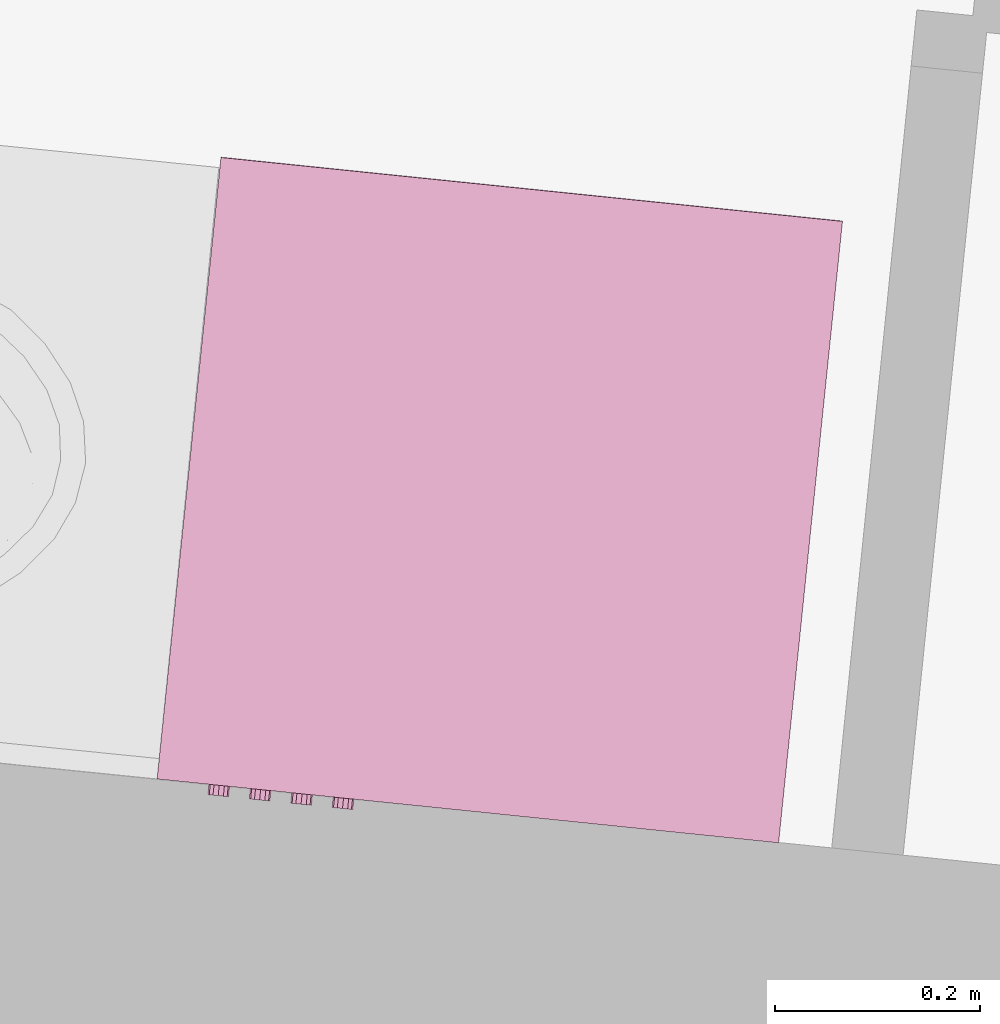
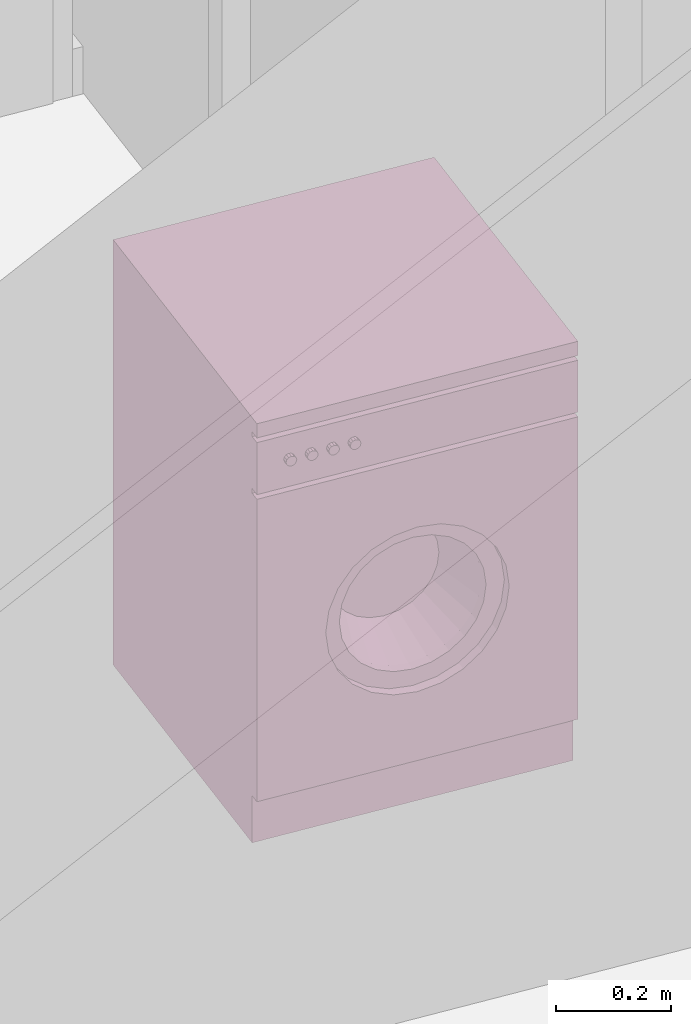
# One storey, part 126 of 164: 1 furnishing.
"""IFC2X3 building model written with IfcOpenShell, lengths in millimetres."""

from ifc_helpers import new_model, entity, si_unit, converted_unit, derived_unit, money_unit, direction, frame, origin_with_axes, place, context, subcontext, project, spatial, open_shell, faceted_brep, surface_model, source, transform, mapped, type_object, element, save


model = new_model("IFC2X3")

# Units and contexts
model_context = context("Model", 3, precision=0.01, world=origin_with_axes(), true_north=direction((0.0, 1.0)))
body_context = subcontext(model_context, "Body", "Model", "MODEL_VIEW")
ifc_project = project(units=[si_unit("LENGTHUNIT", "METRE", prefix="MILLI"), si_unit("AREAUNIT", "SQUARE_METRE"), si_unit("VOLUMEUNIT", "CUBIC_METRE"), converted_unit("PLANEANGLEUNIT", "DEGREE", entity("IfcPlaneAngleMeasure", 0.0174532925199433), si_unit("PLANEANGLEUNIT", "RADIAN"), dimensions=[0, 0, 0, 0, 0, 0, 0]), money_unit("USD"), converted_unit("TIMEUNIT", "Year", entity("IfcTimeMeasure", 31557600.0), si_unit("TIMEUNIT", "SECOND"), dimensions=[0, 0, 1, 0, 0, 0, 0]), si_unit("MASSUNIT", "GRAM", prefix="KILO"), si_unit("THERMODYNAMICTEMPERATUREUNIT", "DEGREE_CELSIUS"), si_unit("LUMINOUSINTENSITYUNIT", "LUMEN"), si_unit("ENERGYUNIT", "JOULE", prefix="MEGA"), derived_unit("THERMALCONDUCTANCEUNIT", [(si_unit("POWERUNIT", "WATT"), 1), (si_unit("LENGTHUNIT", "METRE"), -1), (si_unit("THERMODYNAMICTEMPERATUREUNIT", "KELVIN"), -1)]), derived_unit("SPECIFICHEATCAPACITYUNIT", [(si_unit("ENERGYUNIT", "JOULE"), 1), (si_unit("MASSUNIT", "GRAM", prefix="KILO"), -1), (si_unit("THERMODYNAMICTEMPERATUREUNIT", "KELVIN"), -1)]), derived_unit("MASSDENSITYUNIT", [(si_unit("MASSUNIT", "GRAM", prefix="KILO"), 1), (si_unit("VOLUMEUNIT", "CUBIC_METRE"), -1)])], contexts=[model_context])

# Site, building, storey
site_placement = place(None, origin_with_axes())
site = spatial("IfcSite", under=ifc_project, at=site_placement, Name="Site", CompositionType="ELEMENT")
building_placement = place(site_placement, origin_with_axes())
building = spatial("IfcBuilding", under=site, at=building_placement, Name="Bâtiment", CompositionType="ELEMENT")
storey_placement = place(building_placement, frame((0.0, 0.0, 5750.0), z_axis=(0.0, 0.0, 1.0), x_axis=(1.0, 0.0, 0.0)))
storey = spatial("IfcBuildingStorey", under=building, at=storey_placement, Name="Etage1", CompositionType="ELEMENT", Elevation=5750.0)

# Furnishing
furnishing_element_type = type_object("IfcFurnishingElementType", Name="Machine à laver")
shared_shape = source(origin_with_axes(), body_context, "Body", "SurfaceModel", [
    faceted_brep([(0.0, 20.33333333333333, 100.0), (610.0, 20.33333333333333, 100.0), (610.0, 0.0, 100.0), (0.0, 0.0, 100.0), (0.0, 20.33333333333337, 740.0), (610.0, 20.33333333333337, 740.0), (479.2857142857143, 20.33333333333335, 420.0000000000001), (473.3470725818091, 20.33333333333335, 465.1084621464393), (455.935856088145, 20.33333333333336, 507.1428571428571), (428.2386104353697, 20.33333333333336, 543.2386104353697), (392.1428571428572, 20.33333333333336, 570.935856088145), (350.1084621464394, 20.33333333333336, 588.347072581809), (305.0000000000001, 20.33333333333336, 594.2857142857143), (259.8915378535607, 20.33333333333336, 588.347072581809), (217.8571428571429, 20.33333333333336, 570.9358560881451), (181.7613895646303, 20.33333333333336, 543.2386104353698), (154.0641439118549, 20.33333333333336, 507.1428571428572), (136.6529274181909, 20.33333333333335, 465.1084621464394), (130.7142857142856, 20.33333333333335, 420.0000000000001), (136.6529274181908, 20.33333333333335, 374.8915378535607), (154.0641439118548, 20.33333333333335, 332.8571428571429), (181.7613895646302, 20.33333333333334, 296.7613895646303), (217.8571428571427, 20.33333333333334, 269.064143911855), (259.8915378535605, 20.33333333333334, 251.6529274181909), (304.9999999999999, 20.33333333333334, 245.7142857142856), (350.1084621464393, 20.33333333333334, 251.6529274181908), (392.1428571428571, 20.33333333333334, 269.0641439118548), (428.2386104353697, 20.33333333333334, 296.7613895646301), (455.935856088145, 20.33333333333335, 332.8571428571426), (473.3470725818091, 20.33333333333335, 374.8915378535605), (610.0, 0.0, 740.0), (0.0, 0.0, 740.0), (479.2857142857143, 0.0, 420.0000000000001), (473.3470725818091, 0.0, 374.8915378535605), (455.935856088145, 0.0, 332.8571428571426), (428.2386104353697, 0.0, 296.7613895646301), (392.1428571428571, 0.0, 269.0641439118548), (350.1084621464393, 0.0, 251.6529274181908), (304.9999999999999, 0.0, 245.7142857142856), (259.8915378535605, 0.0, 251.6529274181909), (217.8571428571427, 0.0, 269.064143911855), (181.7613895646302, 0.0, 296.7613895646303), (154.0641439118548, 0.0, 332.8571428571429), (136.6529274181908, 0.0, 374.8915378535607), (130.7142857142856, 0.0, 420.0000000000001), (136.6529274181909, 0.0, 465.1084621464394), (154.0641439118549, 0.0, 507.1428571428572), (181.7613895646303, 0.0, 543.2386104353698), (217.8571428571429, 0.0, 570.9358560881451), (259.8915378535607, 0.0, 588.347072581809), (305.0000000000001, 0.0, 594.2857142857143), (350.1084621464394, 0.0, 588.347072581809), (392.1428571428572, 0.0, 570.935856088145), (428.2386104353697, 0.0, 543.2386104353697), (455.935856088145, 0.0, 507.1428571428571), (473.3470725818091, 0.0, 465.1084621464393)], [[[0, 1, 2, 3]], [[0, 4, 5, 1], [6, 7, 8, 9, 10, 11, 12, 13, 14, 15, 16, 17, 18, 19, 20, 21, 22, 23, 24, 25, 26, 27, 28, 29]], [[1, 5, 30, 2]], [[3, 2, 30, 31], [32, 33, 34, 35, 36, 37, 38, 39, 40, 41, 42, 43, 44, 45, 46, 47, 48, 49, 50, 51, 52, 53, 54, 55]], [[4, 0, 3, 31]], [[5, 4, 31, 30]], [[7, 6, 32, 55]], [[8, 7, 55, 54]], [[9, 8, 54, 53]], [[10, 9, 53, 52]], [[11, 10, 52, 51]], [[12, 11, 51, 50]], [[13, 12, 50, 49]], [[14, 13, 49, 48]], [[15, 14, 48, 47]], [[16, 15, 47, 46]], [[17, 16, 46, 45]], [[18, 17, 45, 44]], [[19, 18, 44, 43]], [[20, 19, 43, 42]], [[21, 20, 42, 41]], [[22, 21, 41, 40]], [[23, 22, 40, 39]], [[24, 23, 39, 38]], [[25, 24, 38, 37]], [[26, 25, 37, 36]], [[27, 26, 36, 35]], [[28, 27, 35, 34]], [[29, 28, 34, 33]], [[6, 29, 33, 32]]]),
    faceted_brep([(479.2857142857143, 40.66666666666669, 420.0000000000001), (473.3470725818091, 40.66666666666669, 465.1084621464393), (473.3470725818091, 20.33333333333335, 465.1084621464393), (479.2857142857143, 20.33333333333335, 420.0000000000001), (473.3470725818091, 40.66666666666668, 374.8915378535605), (455.935856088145, 40.66666666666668, 332.8571428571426), (428.2386104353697, 40.66666666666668, 296.7613895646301), (392.1428571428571, 40.66666666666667, 269.0641439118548), (350.1084621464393, 40.66666666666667, 251.6529274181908), (304.9999999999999, 40.66666666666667, 245.7142857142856), (259.8915378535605, 40.66666666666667, 251.6529274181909), (217.8571428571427, 40.66666666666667, 269.064143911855), (181.7613895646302, 40.66666666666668, 296.7613895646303), (154.0641439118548, 40.66666666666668, 332.8571428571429), (136.6529274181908, 40.66666666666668, 374.8915378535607), (130.7142857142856, 40.66666666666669, 420.0000000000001), (136.6529274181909, 40.66666666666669, 465.1084621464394), (154.0641439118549, 40.66666666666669, 507.1428571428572), (181.7613895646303, 40.66666666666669, 543.2386104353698), (217.8571428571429, 40.66666666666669, 570.9358560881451), (259.8915378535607, 40.66666666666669, 588.347072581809), (305.0000000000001, 40.66666666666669, 594.2857142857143), (350.1084621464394, 40.66666666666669, 588.347072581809), (392.1428571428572, 40.66666666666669, 570.935856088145), (428.2386104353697, 40.66666666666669, 543.2386104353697), (455.935856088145, 40.66666666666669, 507.1428571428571), (444.4285714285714, 40.66666666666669, 420.0000000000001), (439.6776580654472, 40.66666666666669, 456.0867697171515), (425.748684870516, 40.66666666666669, 489.7142857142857), (403.5908883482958, 40.66666666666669, 518.5908883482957), (374.7142857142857, 40.66666666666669, 540.748684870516), (341.0867697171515, 40.66666666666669, 554.6776580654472), (305.0000000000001, 40.66666666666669, 559.4285714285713), (268.9132302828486, 40.66666666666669, 554.6776580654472), (235.2857142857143, 40.66666666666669, 540.7486848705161), (206.4091116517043, 40.66666666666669, 518.5908883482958), (184.251315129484, 40.66666666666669, 489.7142857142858), (170.3223419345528, 40.66666666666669, 456.0867697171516), (165.5714285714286, 40.66666666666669, 420.0000000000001), (170.3223419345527, 40.66666666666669, 383.9132302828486), (184.2513151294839, 40.66666666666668, 350.2857142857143), (206.4091116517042, 40.66666666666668, 321.4091116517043), (235.2857142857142, 40.66666666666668, 299.251315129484), (268.9132302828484, 40.66666666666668, 285.3223419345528), (304.9999999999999, 40.66666666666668, 280.5714285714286), (341.0867697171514, 40.66666666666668, 285.3223419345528), (374.7142857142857, 40.66666666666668, 299.2513151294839), (403.5908883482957, 40.66666666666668, 321.4091116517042), (425.748684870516, 40.66666666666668, 350.2857142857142), (439.6776580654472, 40.66666666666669, 383.9132302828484), (455.935856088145, 20.33333333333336, 507.1428571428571), (428.2386104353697, 20.33333333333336, 543.2386104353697), (392.1428571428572, 20.33333333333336, 570.935856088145), (350.1084621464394, 20.33333333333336, 588.347072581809), (305.0000000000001, 20.33333333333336, 594.2857142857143), (259.8915378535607, 20.33333333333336, 588.347072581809), (217.8571428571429, 20.33333333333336, 570.9358560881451), (181.7613895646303, 20.33333333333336, 543.2386104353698), (154.0641439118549, 20.33333333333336, 507.1428571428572), (136.6529274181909, 20.33333333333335, 465.1084621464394), (130.7142857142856, 20.33333333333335, 420.0000000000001), (136.6529274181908, 20.33333333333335, 374.8915378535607), (154.0641439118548, 20.33333333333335, 332.8571428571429), (181.7613895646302, 20.33333333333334, 296.7613895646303), (217.8571428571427, 20.33333333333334, 269.064143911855), (259.8915378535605, 20.33333333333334, 251.6529274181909), (304.9999999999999, 20.33333333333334, 245.7142857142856), (350.1084621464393, 20.33333333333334, 251.6529274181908), (392.1428571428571, 20.33333333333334, 269.0641439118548), (428.2386104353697, 20.33333333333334, 296.7613895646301), (455.935856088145, 20.33333333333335, 332.8571428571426), (473.3470725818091, 20.33333333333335, 374.8915378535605), (444.4285714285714, 20.33333333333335, 420.0000000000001), (439.6776580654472, 20.33333333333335, 383.9132302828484), (425.748684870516, 20.33333333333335, 350.2857142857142), (403.5908883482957, 20.33333333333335, 321.4091116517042), (374.7142857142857, 20.33333333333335, 299.2513151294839), (341.0867697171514, 20.33333333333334, 285.3223419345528), (304.9999999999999, 20.33333333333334, 280.5714285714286), (268.9132302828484, 20.33333333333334, 285.3223419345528), (235.2857142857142, 20.33333333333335, 299.251315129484), (206.4091116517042, 20.33333333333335, 321.4091116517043), (184.2513151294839, 20.33333333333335, 350.2857142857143), (170.3223419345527, 20.33333333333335, 383.9132302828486), (165.5714285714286, 20.33333333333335, 420.0000000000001), (170.3223419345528, 20.33333333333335, 456.0867697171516), (184.251315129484, 20.33333333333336, 489.7142857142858), (206.4091116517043, 20.33333333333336, 518.5908883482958), (235.2857142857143, 20.33333333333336, 540.7486848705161), (268.9132302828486, 20.33333333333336, 554.6776580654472), (305.0000000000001, 20.33333333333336, 559.4285714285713), (341.0867697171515, 20.33333333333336, 554.6776580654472), (374.7142857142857, 20.33333333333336, 540.748684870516), (403.5908883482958, 20.33333333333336, 518.5908883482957), (425.748684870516, 20.33333333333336, 489.7142857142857), (439.6776580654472, 20.33333333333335, 456.0867697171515)], [[[0, 1, 2, 3]], [[0, 4, 5, 6, 7, 8, 9, 10, 11, 12, 13, 14, 15, 16, 17, 18, 19, 20, 21, 22, 23, 24, 25, 1], [26, 27, 28, 29, 30, 31, 32, 33, 34, 35, 36, 37, 38, 39, 40, 41, 42, 43, 44, 45, 46, 47, 48, 49]], [[1, 25, 50, 2]], [[3, 2, 50, 51, 52, 53, 54, 55, 56, 57, 58, 59, 60, 61, 62, 63, 64, 65, 66, 67, 68, 69, 70, 71], [72, 73, 74, 75, 76, 77, 78, 79, 80, 81, 82, 83, 84, 85, 86, 87, 88, 89, 90, 91, 92, 93, 94, 95]], [[4, 0, 3, 71]], [[5, 4, 71, 70]], [[6, 5, 70, 69]], [[7, 6, 69, 68]], [[8, 7, 68, 67]], [[9, 8, 67, 66]], [[10, 9, 66, 65]], [[11, 10, 65, 64]], [[12, 11, 64, 63]], [[13, 12, 63, 62]], [[14, 13, 62, 61]], [[15, 14, 61, 60]], [[16, 15, 60, 59]], [[17, 16, 59, 58]], [[18, 17, 58, 57]], [[19, 18, 57, 56]], [[20, 19, 56, 55]], [[21, 20, 55, 54]], [[22, 21, 54, 53]], [[23, 22, 53, 52]], [[24, 23, 52, 51]], [[25, 24, 51, 50]], [[27, 26, 72, 95]], [[28, 27, 95, 94]], [[29, 28, 94, 93]], [[30, 29, 93, 92]], [[31, 30, 92, 91]], [[32, 31, 91, 90]], [[33, 32, 90, 89]], [[34, 33, 89, 88]], [[35, 34, 88, 87]], [[36, 35, 87, 86]], [[37, 36, 86, 85]], [[38, 37, 85, 84]], [[39, 38, 84, 83]], [[40, 39, 83, 82]], [[41, 40, 82, 81]], [[42, 41, 81, 80]], [[43, 42, 80, 79]], [[44, 43, 79, 78]], [[45, 44, 78, 77]], [[46, 45, 77, 76]], [[47, 46, 76, 75]], [[48, 47, 75, 74]], [[49, 48, 74, 73]], [[26, 49, 73, 72]]]),
    surface_model("IfcShellBasedSurfaceModel", [(268.9132302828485, 40.6666666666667, 554.6776580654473), (305.0, 40.6666666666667, 559.4285714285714), (305.0, 142.3333333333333, 524.5714285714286), (277.9349227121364, 142.3333333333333, 521.0082435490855), (341.0867697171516, 40.6666666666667, 554.6776580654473), (332.0650772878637, 142.3333333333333, 521.0082435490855), (357.2857142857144, 142.3333333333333, 510.5615136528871), (378.9431662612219, 142.3333333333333, 493.9431662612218), (395.5615136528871, 142.3333333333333, 472.2857142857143), (406.0082435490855, 142.3333333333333, 447.0650772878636), (409.5714285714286, 142.3333333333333, 420.0), (406.0082435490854, 142.3333333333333, 392.9349227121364), (395.561513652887, 142.3333333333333, 367.7142857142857), (378.9431662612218, 142.3333333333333, 346.0568337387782), (357.2857142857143, 142.3333333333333, 329.438486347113), (332.0650772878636, 142.3333333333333, 318.9917564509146), (304.9999999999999, 142.3333333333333, 315.4285714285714), (277.9349227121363, 142.3333333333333, 318.9917564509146), (252.7142857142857, 142.3333333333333, 329.438486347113), (231.0568337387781, 142.3333333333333, 346.0568337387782), (214.4384863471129, 142.3333333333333, 367.7142857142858), (203.9917564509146, 142.3333333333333, 392.9349227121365), (200.4285714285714, 142.3333333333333, 420.0000000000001), (203.9917564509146, 142.3333333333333, 447.0650772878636), (214.438486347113, 142.3333333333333, 472.2857142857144), (231.0568337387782, 142.3333333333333, 493.9431662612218), (252.7142857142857, 142.3333333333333, 510.5615136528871), (235.2857142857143, 40.6666666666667, 540.7486848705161), (374.7142857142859, 40.6666666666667, 540.7486848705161), (403.5908883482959, 40.66666666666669, 518.5908883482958), (425.7486848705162, 40.66666666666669, 489.7142857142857), (439.6776580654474, 40.66666666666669, 456.0867697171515), (444.4285714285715, 40.66666666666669, 419.9999999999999), (439.6776580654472, 40.66666666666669, 383.9132302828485), (425.748684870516, 40.66666666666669, 350.2857142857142), (403.5908883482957, 40.66666666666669, 321.4091116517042), (374.7142857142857, 40.66666666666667, 299.2513151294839), (341.0867697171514, 40.66666666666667, 285.3223419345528), (304.9999999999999, 40.66666666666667, 280.5714285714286), (268.9132302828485, 40.66666666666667, 285.3223419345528), (235.2857142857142, 40.66666666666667, 299.251315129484), (206.4091116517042, 40.66666666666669, 321.4091116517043), (184.2513151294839, 40.66666666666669, 350.2857142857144), (170.3223419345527, 40.66666666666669, 383.9132302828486), (165.5714285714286, 40.66666666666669, 420.0000000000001), (170.3223419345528, 40.66666666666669, 456.0867697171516), (184.251315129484, 40.66666666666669, 489.7142857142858), (206.4091116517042, 40.66666666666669, 518.5908883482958)], [open_shell([[[0, 1, 2, 3]], [[1, 4, 5, 2]], [[2, 5, 6, 7, 8, 9, 10, 11, 12, 13, 14, 15, 16, 17, 18, 19, 20, 21, 22, 23, 24, 25, 26, 3]], [[27, 0, 3, 26]], [[4, 28, 6, 5]], [[28, 29, 7, 6]], [[29, 30, 8, 7]], [[30, 31, 9, 8]], [[31, 32, 10, 9]], [[32, 33, 11, 10]], [[33, 34, 12, 11]], [[34, 35, 13, 12]], [[35, 36, 14, 13]], [[36, 37, 15, 14]], [[37, 38, 16, 15]], [[38, 39, 17, 16]], [[39, 40, 18, 17]], [[40, 41, 19, 18]], [[41, 42, 20, 19]], [[42, 43, 21, 20]], [[43, 44, 22, 21]], [[44, 45, 23, 22]], [[45, 46, 24, 23]], [[46, 47, 25, 24]], [[47, 27, 26, 25]]])]),
    surface_model("IfcShellBasedSurfaceModel", [(0.0, 20.33333333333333, 100.0), (0.0, 20.33333333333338, 870.0), (0.0, 610.0, 870.0), (0.0, 610.0, 99.99999999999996)], [open_shell([[[0, 1, 2, 3]]])]),
    surface_model("IfcShellBasedSurfaceModel", [(610.0, 20.33333333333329, 100.0), (610.0, 20.33333333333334, 870.0), (610.0, 610.0, 870.0), (610.0, 610.0, 99.99999999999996)], [open_shell([[[0, 1, 2, 3]]])]),
    surface_model("IfcShellBasedSurfaceModel", [(0.0, 610.0, 100.0), (0.0, 610.0, 870.0), (610.0, 610.0, 870.0), (610.0, 610.0, 100.0)], [open_shell([[[0, 1, 2, 3]]])]),
    faceted_brep([(0.0, 20.33333333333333, 0.0), (610.0, 20.33333333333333, 0.0), (610.0, 20.33333333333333, 100.0), (0.0, 20.33333333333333, 100.0), (0.0, 610.3333333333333, 0.0), (610.0, 610.3333333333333, 0.0), (610.0, 610.3333333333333, 100.0), (0.0, 610.3333333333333, 100.0)], [[[0, 1, 2, 3]], [[0, 4, 5, 1]], [[1, 5, 6, 2]], [[3, 2, 6, 7]], [[4, 0, 3, 7]], [[5, 4, 7, 6]]]),
    faceted_brep([(0.0, 20.33333333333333, 750.0), (610.0, 20.33333333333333, 750.0), (610.0, 0.0, 750.0), (0.0, 0.0, 750.0), (0.0, 20.33333333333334, 860.0), (610.0, 20.33333333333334, 860.0), (610.0, 0.0, 860.0), (0.0, 0.0, 860.0)], [[[0, 1, 2, 3]], [[0, 4, 5, 1]], [[1, 5, 6, 2]], [[3, 2, 6, 7]], [[4, 0, 3, 7]], [[5, 4, 7, 6]]]),
    surface_model("IfcShellBasedSurfaceModel", [(0.0, 20.33333333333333, 739.8333333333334), (0.0, 20.33333333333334, 869.8333333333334), (610.0, 20.33333333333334, 869.8333333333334), (610.0, 20.33333333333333, 739.8333333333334)], [open_shell([[[0, 1, 2, 3]]])]),
    faceted_brep([(0.0, 0.0, 870.0), (610.0, 0.0, 870.0), (610.0, 0.0, 900.0), (0.0, 0.0, 900.0), (0.0, 610.0, 870.0), (610.0, 610.0, 870.0), (610.0, 610.0, 900.0), (0.0, 610.0, 900.0)], [[[0, 1, 2, 3]], [[0, 4, 5, 1]], [[1, 5, 6, 2]], [[3, 2, 6, 7]], [[4, 0, 3, 7]], [[5, 4, 7, 6]]]),
    faceted_brep([(69.80459160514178, 0.0, 804.9166666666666), (66.08333333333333, 0.0, 801.1954083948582), (60.99999999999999, 0.0, 799.8333333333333), (55.91666666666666, 0.0, 801.1954083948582), (52.1954083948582, 0.0, 804.9166666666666), (50.83333333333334, 0.0, 809.9999999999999), (52.19540839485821, 0.0, 815.0833333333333), (55.91666666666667, 0.0, 818.8045916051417), (61.0, 0.0, 820.1666666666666), (66.08333333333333, 0.0, 818.8045916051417), (69.8045916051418, 0.0, 815.0833333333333), (71.16666666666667, 0.0, 809.9999999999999), (69.80459160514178, -10.16666666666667, 804.9166666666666), (66.08333333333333, -10.16666666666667, 801.1954083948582), (60.99999999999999, -10.16666666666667, 799.8333333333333), (55.91666666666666, -10.16666666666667, 801.1954083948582), (52.1954083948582, -10.16666666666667, 804.9166666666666), (50.83333333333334, -10.16666666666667, 809.9999999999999), (52.19540839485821, -10.16666666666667, 815.0833333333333), (55.91666666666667, -10.16666666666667, 818.8045916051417), (61.0, -10.16666666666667, 820.1666666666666), (66.08333333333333, -10.16666666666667, 818.8045916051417), (69.8045916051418, -10.16666666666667, 815.0833333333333), (71.16666666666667, -10.16666666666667, 809.9999999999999)], [[[0, 1, 2, 3, 4, 5, 6, 7, 8, 9, 10, 11]], [[1, 0, 12, 13]], [[2, 1, 13, 14]], [[3, 2, 14, 15]], [[4, 3, 15, 16]], [[5, 4, 16, 17]], [[6, 5, 17, 18]], [[7, 6, 18, 19]], [[8, 7, 19, 20]], [[9, 8, 20, 21]], [[10, 9, 21, 22]], [[11, 10, 22, 23]], [[0, 11, 23, 12]], [[12, 23, 22, 21, 20, 19, 18, 17, 16, 15, 14, 13]]]),
    faceted_brep([(110.4712582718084, 0.0, 804.9166666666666), (106.75, 0.0, 801.1954083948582), (101.6666666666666, 0.0, 799.8333333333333), (96.58333333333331, 0.0, 801.1954083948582), (92.86207506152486, 0.0, 804.9166666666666), (91.49999999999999, 0.0, 809.9999999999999), (92.86207506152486, 0.0, 815.0833333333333), (96.58333333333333, 0.0, 818.8045916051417), (101.6666666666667, 0.0, 820.1666666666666), (106.75, 0.0, 818.8045916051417), (110.4712582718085, 0.0, 815.0833333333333), (111.8333333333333, 0.0, 809.9999999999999), (110.4712582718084, -10.16666666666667, 804.9166666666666), (106.75, -10.16666666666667, 801.1954083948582), (101.6666666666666, -10.16666666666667, 799.8333333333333), (96.58333333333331, -10.16666666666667, 801.1954083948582), (92.86207506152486, -10.16666666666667, 804.9166666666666), (91.49999999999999, -10.16666666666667, 809.9999999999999), (92.86207506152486, -10.16666666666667, 815.0833333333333), (96.58333333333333, -10.16666666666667, 818.8045916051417), (101.6666666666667, -10.16666666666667, 820.1666666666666), (106.75, -10.16666666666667, 818.8045916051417), (110.4712582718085, -10.16666666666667, 815.0833333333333), (111.8333333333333, -10.16666666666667, 809.9999999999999)], [[[0, 1, 2, 3, 4, 5, 6, 7, 8, 9, 10, 11]], [[1, 0, 12, 13]], [[2, 1, 13, 14]], [[3, 2, 14, 15]], [[4, 3, 15, 16]], [[5, 4, 16, 17]], [[6, 5, 17, 18]], [[7, 6, 18, 19]], [[8, 7, 19, 20]], [[9, 8, 20, 21]], [[10, 9, 21, 22]], [[11, 10, 22, 23]], [[0, 11, 23, 12]], [[12, 23, 22, 21, 20, 19, 18, 17, 16, 15, 14, 13]]]),
    faceted_brep([(151.1379249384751, 0.0, 804.9166666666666), (147.4166666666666, 0.0, 801.1954083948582), (142.3333333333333, 0.0, 799.8333333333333), (137.25, 0.0, 801.1954083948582), (133.5287417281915, 0.0, 804.9166666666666), (132.1666666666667, 0.0, 809.9999999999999), (133.5287417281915, 0.0, 815.0833333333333), (137.25, 0.0, 818.8045916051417), (142.3333333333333, 0.0, 820.1666666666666), (147.4166666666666, 0.0, 818.8045916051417), (151.1379249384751, 0.0, 815.0833333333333), (152.5, 0.0, 809.9999999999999), (151.1379249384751, -10.16666666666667, 804.9166666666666), (147.4166666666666, -10.16666666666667, 801.1954083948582), (142.3333333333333, -10.16666666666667, 799.8333333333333), (137.25, -10.16666666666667, 801.1954083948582), (133.5287417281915, -10.16666666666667, 804.9166666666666), (132.1666666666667, -10.16666666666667, 809.9999999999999), (133.5287417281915, -10.16666666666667, 815.0833333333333), (137.25, -10.16666666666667, 818.8045916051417), (142.3333333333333, -10.16666666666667, 820.1666666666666), (147.4166666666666, -10.16666666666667, 818.8045916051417), (151.1379249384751, -10.16666666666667, 815.0833333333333), (152.5, -10.16666666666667, 809.9999999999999)], [[[0, 1, 2, 3, 4, 5, 6, 7, 8, 9, 10, 11]], [[1, 0, 12, 13]], [[2, 1, 13, 14]], [[3, 2, 14, 15]], [[4, 3, 15, 16]], [[5, 4, 16, 17]], [[6, 5, 17, 18]], [[7, 6, 18, 19]], [[8, 7, 19, 20]], [[9, 8, 20, 21]], [[10, 9, 21, 22]], [[11, 10, 22, 23]], [[0, 11, 23, 12]], [[12, 23, 22, 21, 20, 19, 18, 17, 16, 15, 14, 13]]]),
    faceted_brep([(191.8045916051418, 0.0, 804.9166666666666), (188.0833333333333, 0.0, 801.1954083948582), (183.0, 0.0, 799.8333333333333), (177.9166666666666, 0.0, 801.1954083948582), (174.1954083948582, 0.0, 804.9166666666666), (172.8333333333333, 0.0, 809.9999999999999), (174.1954083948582, 0.0, 815.0833333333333), (177.9166666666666, 0.0, 818.8045916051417), (183.0, 0.0, 820.1666666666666), (188.0833333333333, 0.0, 818.8045916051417), (191.8045916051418, 0.0, 815.0833333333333), (193.1666666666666, 0.0, 809.9999999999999), (191.8045916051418, -10.16666666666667, 804.9166666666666), (188.0833333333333, -10.16666666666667, 801.1954083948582), (183.0, -10.16666666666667, 799.8333333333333), (177.9166666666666, -10.16666666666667, 801.1954083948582), (174.1954083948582, -10.16666666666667, 804.9166666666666), (172.8333333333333, -10.16666666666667, 809.9999999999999), (174.1954083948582, -10.16666666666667, 815.0833333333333), (177.9166666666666, -10.16666666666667, 818.8045916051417), (183.0, -10.16666666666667, 820.1666666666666), (188.0833333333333, -10.16666666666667, 818.8045916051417), (191.8045916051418, -10.16666666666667, 815.0833333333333), (193.1666666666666, -10.16666666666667, 809.9999999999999)], [[[0, 1, 2, 3, 4, 5, 6, 7, 8, 9, 10, 11]], [[1, 0, 12, 13]], [[2, 1, 13, 14]], [[3, 2, 14, 15]], [[4, 3, 15, 16]], [[5, 4, 16, 17]], [[6, 5, 17, 18]], [[7, 6, 18, 19]], [[8, 7, 19, 20]], [[9, 8, 20, 21]], [[10, 9, 21, 22]], [[11, 10, 22, 23]], [[0, 11, 23, 12]], [[12, 23, 22, 21, 20, 19, 18, 17, 16, 15, 14, 13]]]),
])
furnishing_placement = place(storey_placement, frame((2225510.746677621, -621309.5995392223, 0.0), z_axis=(0.0, 0.0, 1.0), x_axis=(0.9947605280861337, -0.1022325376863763, 0.0)))
element("IfcFurnishingElement", 1, at=furnishing_placement, inside=storey, type_object=furnishing_element_type, Name="Obj.-003", context=body_context, shape_type="MappedRepresentation", body=[
    mapped(shared_shape, transform((0.0, 0.0, 0.0))),
])

save(model, "model.ifc")
